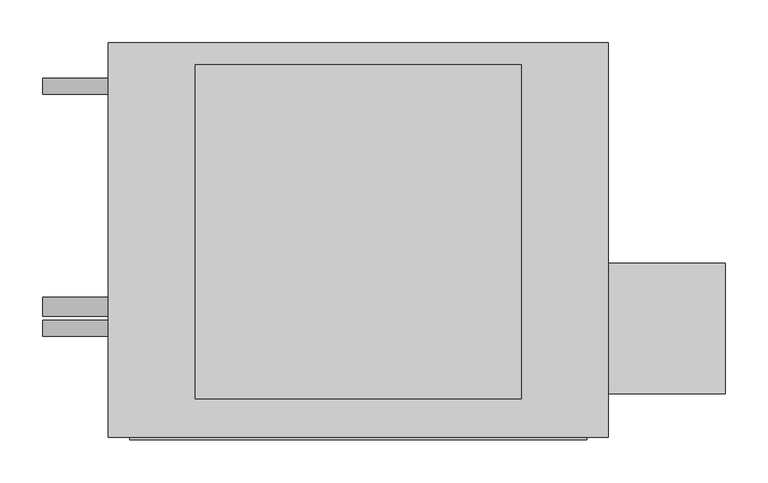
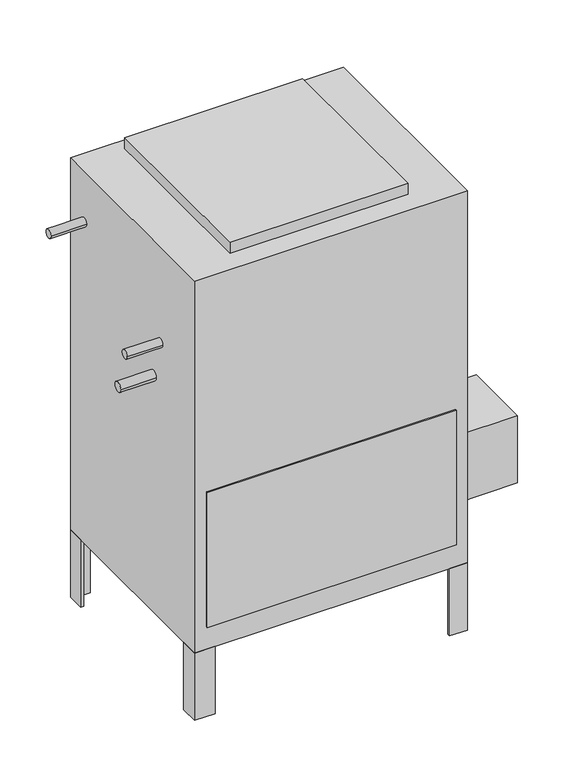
"""IFC4 building model written with IfcOpenShell, lengths in millimetres: proxy geometry, Concealed_High_Capacity_Vertical_Fan_Coil_Unit_-_42DDA_-_CARRIER_-_2-Pipe_Cool-EHeat_LH_2022 : Size 06 - 277v/60Hz/1Ph - 6 Row 4.0kW."""

from ifc_helpers import new_model, si_unit, point, frame, frame_2d, origin, origin_with_axes, place, context, project, spatial, polyline, circle_curve, trimmed, segment, composite_curve, outline, extrude, source, transform, mapped, element, save


def mechanical_equipment_43bb50d7(model_context):
    return source(origin(), model_context, "Body", "SweptSolid", [
        extrude(outline(polyline([(444.5, -417.5125), (444.5, -265.1125), (581.025, -265.1125), (581.025, -417.5125), (444.5, -417.5125)])), frame((0.0, 0.0, 101.6), z_axis=(0.0, 0.0, 1.0), x_axis=(1.0, 0.0, 0.0)), (0.0, 0.0, 1.0), 152.4),
        extrude(outline(polyline([(444.5, -46.0375), (438.15, -46.0375), (438.15, -14.2875), (406.4, -14.2875), (406.4, -7.9375), (444.5, -7.9375), (444.5, -46.0375)])), frame((0.0, 0.0, -152.4), z_axis=(0.0, 0.0, 1.0), x_axis=(1.0, 0.0, 0.0)), (0.0, 0.0, 1.0), 152.4),
        extrude(outline(polyline([(-101.6, -7.9375), (-101.6, -14.2875), (-133.35, -14.2875), (-133.35, -46.0375), (-139.7, -46.0375), (-139.7, -7.9375), (-101.6, -7.9375)])), frame((0.0, 0.0, -152.4), z_axis=(0.0, 0.0, 1.0), x_axis=(1.0, 0.0, 0.0)), (0.0, 0.0, 1.0), 152.4),
        extrude(outline(polyline([(406.4, -468.3125), (406.4, -461.9625), (438.15, -461.9625), (438.15, -430.2125), (444.5, -430.2125), (444.5, -468.3125), (406.4, -468.3125)])), frame((0.0, 0.0, -152.4), z_axis=(0.0, 0.0, 1.0), x_axis=(1.0, 0.0, 0.0)), (0.0, 0.0, 1.0), 152.4),
        extrude(outline(polyline([(-139.7, -428.1199163), (-133.35, -428.1199163), (-133.35, -461.9625), (-96.2318533, -461.9625), (-96.2318533, -468.3125), (-139.7, -468.3125), (-139.7, -428.1199163)])), frame((0.0, 0.0, -152.4), z_axis=(0.0, 0.0, 1.0), x_axis=(1.0, 0.0, 0.0)), (0.0, 0.0, 1.0), 152.4),
        extrude(outline(polyline([(342.9, -33.3375), (342.9, -423.8625), (-38.1, -423.8625), (-38.1, -33.3375), (342.9, -33.3375)])), frame((0.0, 0.0, 841.375), z_axis=(0.0, 0.0, 1.0), x_axis=(1.0, 0.0, 0.0)), (0.0, 0.0, 1.0), 25.4),
        extrude(outline(polyline([(419.1, -471.4875), (-114.3, -471.4875), (-114.3, -468.3125), (419.1, -468.3125), (419.1, -471.4875)])), frame((0.0, 0.0, 50.8), z_axis=(0.0, 0.0, 1.0), x_axis=(1.0, 0.0, 0.0)), (0.0, 0.0, 1.0), 304.8),
        extrude(outline(composite_curve([segment(trimmed(circle_curve(frame_2d((-58.7375, 727.075)), 9.525), [point((-68.2625, 727.075))], [point((-49.2125, 727.075))], False, "CARTESIAN"), True, "CONTINUOUS"), segment(trimmed(circle_curve(frame_2d((-58.7375, 727.075)), 9.525), [point((-49.2125, 727.075))], [point((-68.2625, 727.075))], False, "CARTESIAN"), True, "CONTINUOUS")], self_intersect=False)), frame((-215.9, 0.0, 0.0), z_axis=(1.0, 0.0, 0.0), x_axis=(0.0, 1.0, 0.0)), (0.0, 0.0, 1.0), 76.2),
        extrude(outline(composite_curve([segment(trimmed(circle_curve(frame_2d((-341.3125, 625.475)), 9.525), [point((-350.8375, 625.475))], [point((-331.7875, 625.475))], False, "CARTESIAN"), True, "CONTINUOUS"), segment(trimmed(circle_curve(frame_2d((-341.3125, 625.475)), 9.525), [point((-331.7875, 625.475))], [point((-350.8375, 625.475))], False, "CARTESIAN"), True, "CONTINUOUS")], self_intersect=False)), frame((-215.9, 0.0, 0.0), z_axis=(1.0, 0.0, 0.0), x_axis=(0.0, 1.0, 0.0)), (0.0, 0.0, 1.0), 76.2),
        extrude(outline(composite_curve([segment(trimmed(circle_curve(frame_2d((-315.9125, 536.575)), 11.1125), [point((-327.025, 536.575))], [point((-304.8, 536.575))], False, "CARTESIAN"), True, "CONTINUOUS"), segment(trimmed(circle_curve(frame_2d((-315.9125, 536.575)), 11.1125), [point((-304.8, 536.575))], [point((-327.025, 536.575))], False, "CARTESIAN"), True, "CONTINUOUS")], self_intersect=False)), frame((-215.9, 0.0, 0.0), z_axis=(1.0, 0.0, 0.0), x_axis=(0.0, 1.0, 0.0)), (0.0, 0.0, 1.0), 76.2),
        extrude(outline(polyline([(444.5, -7.9375), (444.5, -468.3125), (-139.7, -468.3125), (-139.7, -7.9375), (444.5, -7.9375)])), origin_with_axes(), (0.0, 0.0, 1.0), 841.375),
    ])


if __name__ == "__main__":
    model = new_model("IFC4")
    model_context = context("Model", 3, world=origin())
    ifc_project = project(units=[si_unit("LENGTHUNIT", "METRE", prefix="MILLI")], contexts=[model_context])
    site = spatial("IfcSite", under=ifc_project)
    building = spatial("IfcBuilding", under=site)
    placement = place(None, origin())
    mechanical_equipment_shape = mechanical_equipment_43bb50d7(model_context)
    element("IfcBuildingElementProxy", 1, Name="Concealed_High_Capacity_Vertical_Fan_Coil_Unit_-_42DDA_-_CARRIER_-_2-Pipe_Cool-EHeat_LH_2022 : Size 06 - 277v/60Hz/1Ph - 6 Row 4.0kW", ObjectType="Concealed_High_Capacity_Vertical_Fan_Coil_Unit_-_42DDA_-_CARRIER_-_2-Pipe_Cool-EHeat_LH_2022 : Size 06 - 277v/60Hz/1Ph - 6 Row 4.0kW", at=placement, inside=building, context=model_context, shape_type="MappedRepresentation", body=[
        mapped(mechanical_equipment_shape, transform((0.0, 0.0, 0.0), x_axis=(1.0, 0.0, 0.0), y_axis=(0.0, 1.0, 0.0), z_axis=(0.0, 0.0, 1.0))),
    ])
    save(model, "model.ifc")
